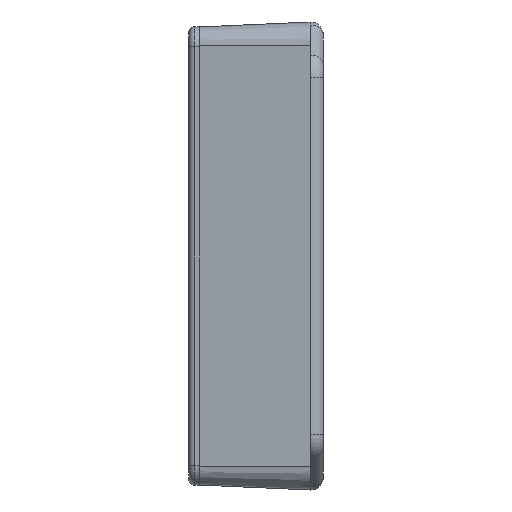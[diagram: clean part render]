
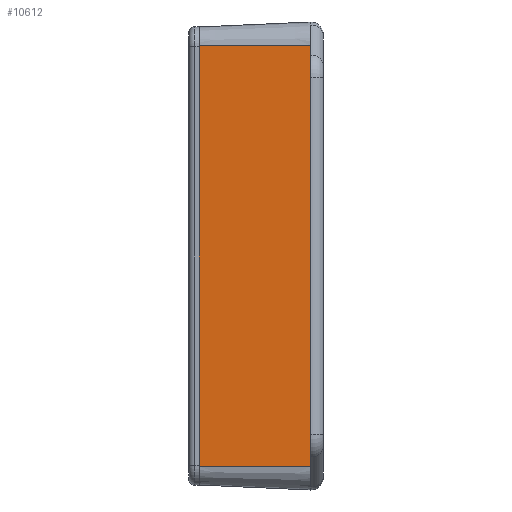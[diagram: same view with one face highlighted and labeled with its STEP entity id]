
A CAD part, left-side view. The second image highlights one B-rep face of the part: STEP entity #10612.
In plain terms, the highlighted planar face has unit normal (-0.999, 0.044, 0).
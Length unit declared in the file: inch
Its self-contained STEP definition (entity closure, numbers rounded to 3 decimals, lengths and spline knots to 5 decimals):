
#986 = CARTESIAN_POINT ( 'NONE',  ( -3.1075, -1.125, -2.122 ) ) ;
#987 = CARTESIAN_POINT ( 'NONE',  ( -3.1075, -1.125, 2.122 ) ) ;
#997 = CARTESIAN_POINT ( 'NONE',  ( -3.0575, 0., 2.122 ) ) ;
#998 = CARTESIAN_POINT ( 'NONE',  ( -3.0575, 0., -2.122 ) ) ;
#2538 = VECTOR ( 'NONE', #5189, 39.37008 ) ;
#2545 = VECTOR ( 'NONE', #5206, 39.37008 ) ;
#2548 = LINE ( 'NONE', #5226, #2545 ) ;
#2552 = LINE ( 'NONE', #5154, #2565 ) ;
#2553 = LINE ( 'NONE', #5196, #2538 ) ;
#2565 = VECTOR ( 'NONE', #5153, 39.37008 ) ;
#2569 = LINE ( 'NONE', #5151, #2570 ) ;
#2570 = VECTOR ( 'NONE', #5149, 39.37008 ) ;
#3184 = PLANE ( 'NONE',  #4693 ) ;
#3195 = CARTESIAN_POINT ( 'NONE',  ( -3.0575, 0., -2.122 ) ) ;
#3249 = DIRECTION ( 'NONE',  ( -0.044, -0.999, 0. ) ) ;
#3250 = DIRECTION ( 'NONE',  ( -0.999, 0.044, 0. ) ) ;
#4693 = AXIS2_PLACEMENT_3D ( 'NONE', #3195, #3250, #3249 ) ;
#5149 = DIRECTION ( 'NONE',  ( 0., 0., 1. ) ) ;
#5151 = CARTESIAN_POINT ( 'NONE',  ( -3.0575, 0., -2.122 ) ) ;
#5153 = DIRECTION ( 'NONE',  ( 0.044, 0.999, 0. ) ) ;
#5154 = CARTESIAN_POINT ( 'NONE',  ( -3.0575, 0., -2.122 ) ) ;
#5189 = DIRECTION ( 'NONE',  ( 0.044, 0.999, 0. ) ) ;
#5196 = CARTESIAN_POINT ( 'NONE',  ( -3.0575, 0., 2.122 ) ) ;
#5206 = DIRECTION ( 'NONE',  ( 0., 0., 1. ) ) ;
#5226 = CARTESIAN_POINT ( 'NONE',  ( -3.1075, -1.125, 2.122 ) ) ;
#5798 = VERTEX_POINT ( 'NONE', #998 ) ;
#5799 = VERTEX_POINT ( 'NONE', #997 ) ;
#5809 = VERTEX_POINT ( 'NONE', #987 ) ;
#5810 = VERTEX_POINT ( 'NONE', #986 ) ;
#6545 = EDGE_CURVE ( 'NONE', #5810, #5809, #2548, .T. ) ;
#6549 = EDGE_CURVE ( 'NONE', #5809, #5799, #2553, .T. ) ;
#6558 = EDGE_CURVE ( 'NONE', #5810, #5798, #2552, .T. ) ;
#6559 = EDGE_CURVE ( 'NONE', #5798, #5799, #2569, .T. ) ;
#8334 = ORIENTED_EDGE ( 'NONE', *, *, #6559, .F. ) ;
#8335 = ORIENTED_EDGE ( 'NONE', *, *, #6558, .F. ) ;
#8336 = ORIENTED_EDGE ( 'NONE', *, *, #6545, .T. ) ;
#8337 = ORIENTED_EDGE ( 'NONE', *, *, #6549, .T. ) ;
#8955 = FACE_OUTER_BOUND ( 'NONE', #9516, .T. ) ;
#9516 = EDGE_LOOP ( 'NONE', ( #8334, #8335, #8336, #8337 ) ) ;
#10612 = ADVANCED_FACE ( 'NONE', ( #8955 ), #3184, .T. ) ;
